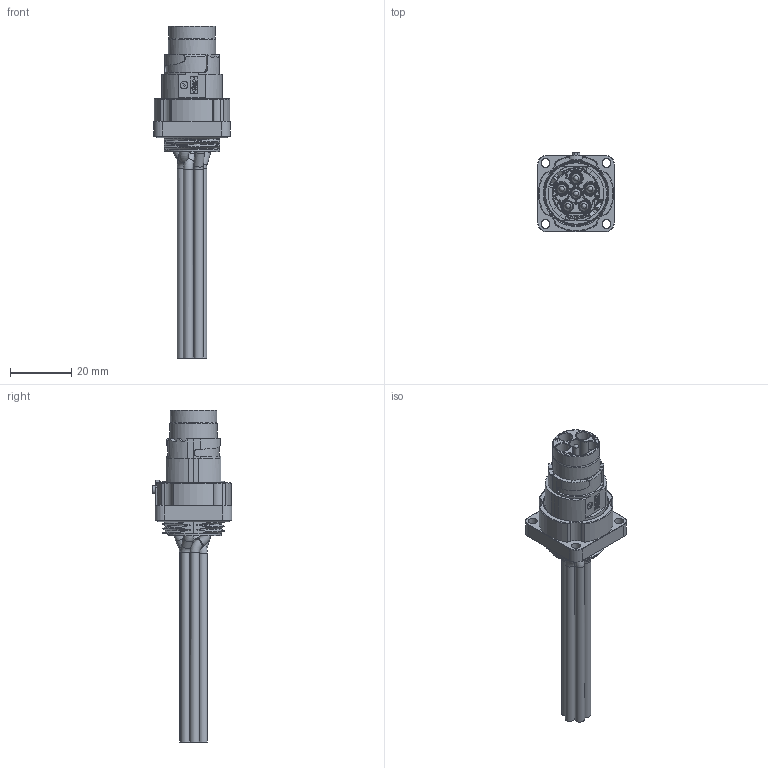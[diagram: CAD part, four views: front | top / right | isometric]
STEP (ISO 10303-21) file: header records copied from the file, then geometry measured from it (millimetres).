
FILE_DESCRIPTION (( 'STEP AP203' ), '1' );
FILE_NAME ('X-TEC_15M_ANBAU-STI_STEP.STEP', '2023-09-25T12:56:01', ( '' ), ( '' ), 'SwSTEP 2.0', 'SolidWorks 2021', '' );
FILE_SCHEMA (( 'CONFIG_CONTROL_DESIGN' ));
Products named in the file (1): X-TEC_15M_ANBAU-STI_STEP
Bounding box: 25 x 26 x 108.3 mm (x, y, z)
Volume: 13446.4 mm3; surface area: 21802.7 mm2
Topology: 20 solids, 20 shells, 1841 faces, 4071 edges, 2673 vertices
Faces by surface type: plane 843, cylinder 642, bspline 228, torus 66, cone 62
Full cylindrical faces by diameter (mm): 0.2 x330, 0.8 x6, 1.6 x6, 1.75 x6, 2.453 x1, 2.5 x2, 2.6 x13, 2.8 x6, 2.9 x4, 3.1 x17, 3.2 x18, 3.3 x6, 3.4 x11, 4 x6, 4.4 x3, 4.6 x4, 4.7 x4, 14 x1, 15.2 x1, 15.4 x1, 15.5 x1, 15.58 x1, 15.63 x1, 16 x1, 16.07 x1, 18 x1, 20.5 x1, 21 x2
Entity records: 98135 total; most frequent: CARTESIAN_POINT 60996, DIRECTION 7235, ORIENTED_EDGE 6920, EDGE_CURVE 3460, AXIS2_PLACEMENT_3D 2972, EDGE_LOOP 2835, VERTEX_POINT 2603, FACE_OUTER_BOUND 2315
